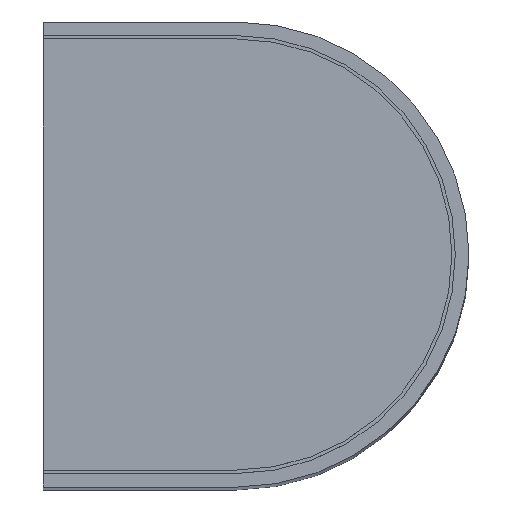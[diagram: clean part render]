
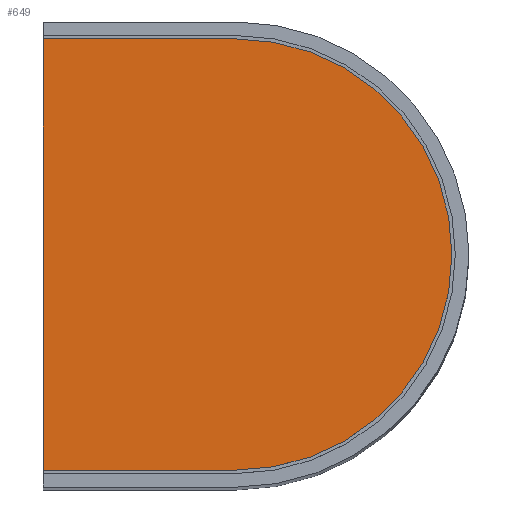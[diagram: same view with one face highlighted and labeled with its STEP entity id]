
A CAD part, top view. The second image highlights one B-rep face of the part: STEP entity #649.
In plain terms, the highlighted planar face has unit normal (0, 0, 1).
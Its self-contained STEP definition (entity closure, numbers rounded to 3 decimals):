
#15 = LINE ( 'NONE', #390, #231 ) ;
#94 = PLANE ( 'NONE',  #279 ) ;
#112 = VERTEX_POINT ( 'NONE', #489 ) ;
#128 = ORIENTED_EDGE ( 'NONE', *, *, #444, .T. ) ;
#168 = FACE_OUTER_BOUND ( 'NONE', #686, .T. ) ;
#172 = CARTESIAN_POINT ( 'NONE',  ( -68.25, 0., 249.5 ) ) ;
#217 = DIRECTION ( 'NONE',  ( 0., 0., 1. ) ) ;
#231 = VECTOR ( 'NONE', #505, 1000. ) ;
#247 = ORIENTED_EDGE ( 'NONE', *, *, #316, .T. ) ;
#263 = CARTESIAN_POINT ( 'NONE',  ( -125., 63.25, 249.5 ) ) ;
#266 = DIRECTION ( 'NONE',  ( 0., -1., 0. ) ) ;
#279 = AXIS2_PLACEMENT_3D ( 'NONE', #590, #433, #735 ) ;
#293 = EDGE_CURVE ( 'NONE', #112, #734, #15, .T. ) ;
#316 = EDGE_CURVE ( 'NONE', #734, #465, #696, .T. ) ;
#319 = CARTESIAN_POINT ( 'NONE',  ( -68.25, -63.25, 249.5 ) ) ;
#352 = ORIENTED_EDGE ( 'NONE', *, *, #293, .T. ) ;
#354 = DIRECTION ( 'NONE',  ( -1., 0., 0. ) ) ;
#361 = CARTESIAN_POINT ( 'NONE',  ( -68.25, 63.25, 249.5 ) ) ;
#388 = VERTEX_POINT ( 'NONE', #560 ) ;
#390 = CARTESIAN_POINT ( 'NONE',  ( -125., -63.25, 249.5 ) ) ;
#433 = DIRECTION ( 'NONE',  ( 0., 0., 1. ) ) ;
#444 = EDGE_CURVE ( 'NONE', #465, #388, #480, .T. ) ;
#448 = ORIENTED_EDGE ( 'NONE', *, *, #694, .T. ) ;
#453 = DIRECTION ( 'NONE',  ( 1., 0., 0. ) ) ;
#465 = VERTEX_POINT ( 'NONE', #361 ) ;
#480 = LINE ( 'NONE', #579, #634 ) ;
#489 = CARTESIAN_POINT ( 'NONE',  ( -125., -63.25, 249.5 ) ) ;
#505 = DIRECTION ( 'NONE',  ( 1., 0., 0. ) ) ;
#516 = VECTOR ( 'NONE', #266, 1000. ) ;
#560 = CARTESIAN_POINT ( 'NONE',  ( -125., 63.25, 249.5 ) ) ;
#579 = CARTESIAN_POINT ( 'NONE',  ( -68.25, 63.25, 249.5 ) ) ;
#590 = CARTESIAN_POINT ( 'NONE',  ( -68.25, 0., 249.5 ) ) ;
#632 = AXIS2_PLACEMENT_3D ( 'NONE', #172, #217, #453 ) ;
#633 = LINE ( 'NONE', #263, #516 ) ;
#634 = VECTOR ( 'NONE', #354, 1000. ) ;
#649 = ADVANCED_FACE ( 'NONE', ( #168 ), #94, .T. ) ;
#686 = EDGE_LOOP ( 'NONE', ( #128, #448, #352, #247 ) ) ;
#694 = EDGE_CURVE ( 'NONE', #388, #112, #633, .T. ) ;
#696 = CIRCLE ( 'NONE', #632, 63.25 ) ;
#734 = VERTEX_POINT ( 'NONE', #319 ) ;
#735 = DIRECTION ( 'NONE',  ( 1., 0., 0. ) ) ;
